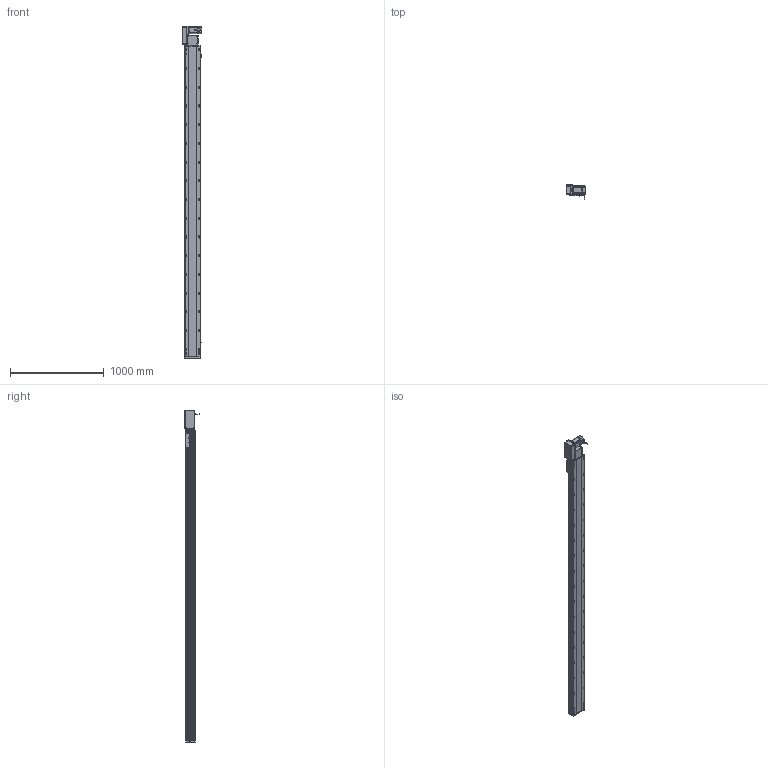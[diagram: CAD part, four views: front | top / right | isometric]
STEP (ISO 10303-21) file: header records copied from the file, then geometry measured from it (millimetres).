
FILE_DESCRIPTION (( 'STEP AP214' ), '1' );
FILE_NAME ('RTB17S-XX-3050-L-M75-C4.STEP', '2025-12-12T00:25:10', ( '' ), ( '' ), 'SwSTEP 2.0', 'SolidWorks 2018', '' );
FILE_SCHEMA (( 'AUTOMOTIVE_DESIGN' ));
Length unit declared in the file: millimetre
Products named in the file (15): RTB17S-L-々湍釱蚾饜-750W^RTB17S-XX-XX-L-M75-C4; RTB22S-GY-008-M75--萇儂啣^RTB17S-L-々湍釱蚾饜-750W_RTB17S-XX-XX-L-M75-C4; 750W萇儂^RTB17S-XX-XX-L-M75-C4; RTB22S-GY-005P^RTB17S-L-々湍釱蚾饜-750W_RTB17S-XX-XX-L-M75-C4; RTB17S-L-007奻裔^RTB17S-XX-XX-L-M75-C4; RTB22S-GY-017P^RTB17S-L-々湍釱蚾饜-750W_RTB17S-XX-XX-L-M75-C4; EE672^RTB17S-XX-XX-L-M75-C4; RMP17S-L-014-T20-P75--々湍釱^RTB17S-L-々湍釱蚾饜-750W_RTB17S-XX-XX-L-M75-C4; RTH13-BL-012覜茼え俋离^RTB17S-賑釱_RTB17S-XX-XX-L-M75-C4; RTB17S-XX-3050-L-M75-C4; RTB22S-GY-018P^RTB17S-L-々湍釱蚾饜-750W_RTB17S-XX-XX-L-M75-C4; RTB17S-賑釱^RTB17S-XX-XX-L-M75-C4; RTB17S-L-004-賑釱^RTB17S-賑釱_RTB17S-XX-XX-L-M75-C4; RTB17S-L-001-耜醱啣^RTB17S-XX-XX-L-M75-C4; RTB17-R-011菁釱^RTB17S-XX-XX-L-M75-C4
Assembly tree (17 placements, depth 3):
  RTB17S-XX-3050-L-M75-C4
    RTB17-R-011菁釱^RTB17S-XX-XX-L-M75-C4
    EE672^RTB17S-XX-XX-L-M75-C4  x3
    RTB17S-L-001-耜醱啣^RTB17S-XX-XX-L-M75-C4
    RTB17S-賑釱^RTB17S-XX-XX-L-M75-C4
      RTB17S-L-004-賑釱^RTB17S-賑釱_RTB17S-XX-XX-L-M75-C4
      RTH13-BL-012覜茼え俋离^RTB17S-賑釱_RTB17S-XX-XX-L-M75-C4
    RTB17S-L-007奻裔^RTB17S-XX-XX-L-M75-C4
    750W萇儂^RTB17S-XX-XX-L-M75-C4
    RTB17S-L-々湍釱蚾饜-750W^RTB17S-XX-XX-L-M75-C4
      RMP17S-L-014-T20-P75--々湍釱^RTB17S-L-々湍釱蚾饜-750W_RTB17S-XX-XX-L-M75-C4
      RTB22S-GY-005P^RTB17S-L-々湍釱蚾饜-750W_RTB17S-XX-XX-L-M75-C4
      RTB22S-GY-017P^RTB17S-L-々湍釱蚾饜-750W_RTB17S-XX-XX-L-M75-C4  x2
      RTB22S-GY-008-M75--萇儂啣^RTB17S-L-々湍釱蚾饜-750W_RTB17S-XX-XX-L-M75-C4
      RTB22S-GY-018P^RTB17S-L-々湍釱蚾饜-750W_RTB17S-XX-XX-L-M75-C4
Bounding box: 210.4 x 152.7 x 3549 mm (x, y, z)
Volume: 25010772.5 mm3; surface area: 4590792.6 mm2
Topology: 17 solids, 17 shells, 2265 faces, 6376 edges, 4130 vertices
Faces by surface type: plane 992, cylinder 857, bspline 294, cone 110, sphere 8, torus 4
Entity records: 66550 total; most frequent: CARTESIAN_POINT 19840, ORIENTED_EDGE 9596, DIRECTION 8852, EDGE_CURVE 4798, AXIS2_PLACEMENT_3D 3150, VERTEX_POINT 3134, VECTOR 2552, LINE 2552
